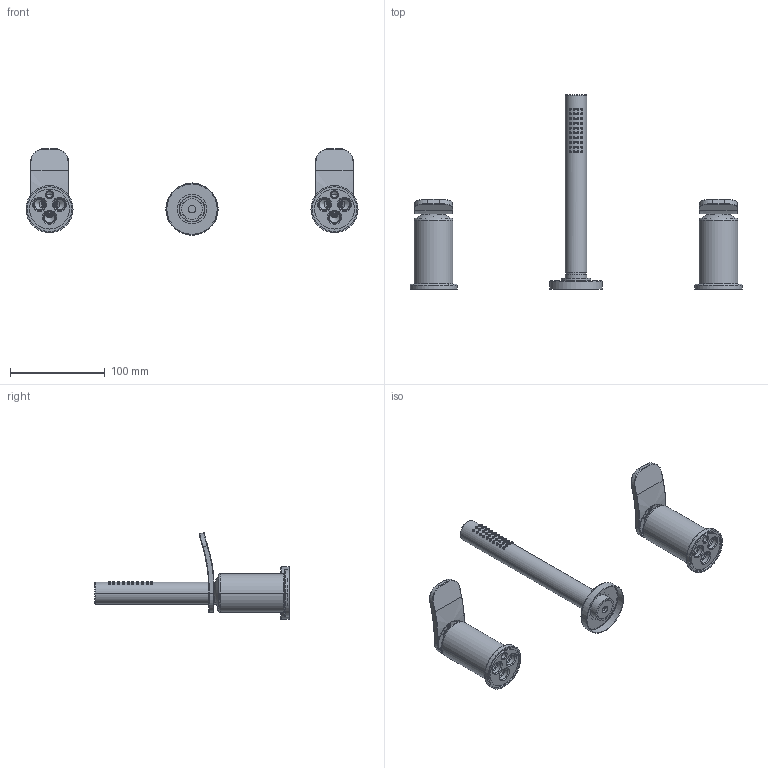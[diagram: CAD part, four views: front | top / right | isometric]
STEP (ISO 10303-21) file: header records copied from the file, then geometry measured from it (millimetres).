
FILE_DESCRIPTION((''),'2;1');
FILE_NAME('3DF_F3814_1','2022-03-11T08:25:22',('ivanv'),(''),'CREO PARAMETRIC BY PTC INC, 2021184','CREO PARAMETRIC BY PTC INC, 2021184','');
FILE_SCHEMA(('CONFIG_CONTROL_DESIGN'));
Length unit declared in the file: millimetre
Products named in the file (1): 3DF_F3814_1
Bounding box: 349.5 x 204.5 x 91.02 mm (x, y, z)
Volume: 206200.9 mm3; surface area: 96609.6 mm2
Topology: 7 solids, 7 shells, 1406 faces, 3416 edges, 2149 vertices
Faces by surface type: plane 538, cylinder 458, torus 136, bspline 96, cone 84, extrusion 76, sphere 18
Entity records: 55178 total; most frequent: CARTESIAN_POINT 23192, ORIENTED_EDGE 6808, DIRECTION 6207, EDGE_CURVE 3404, AXIS2_PLACEMENT_3D 2193, VERTEX_POINT 2149, VECTOR 1821, LINE 1745
